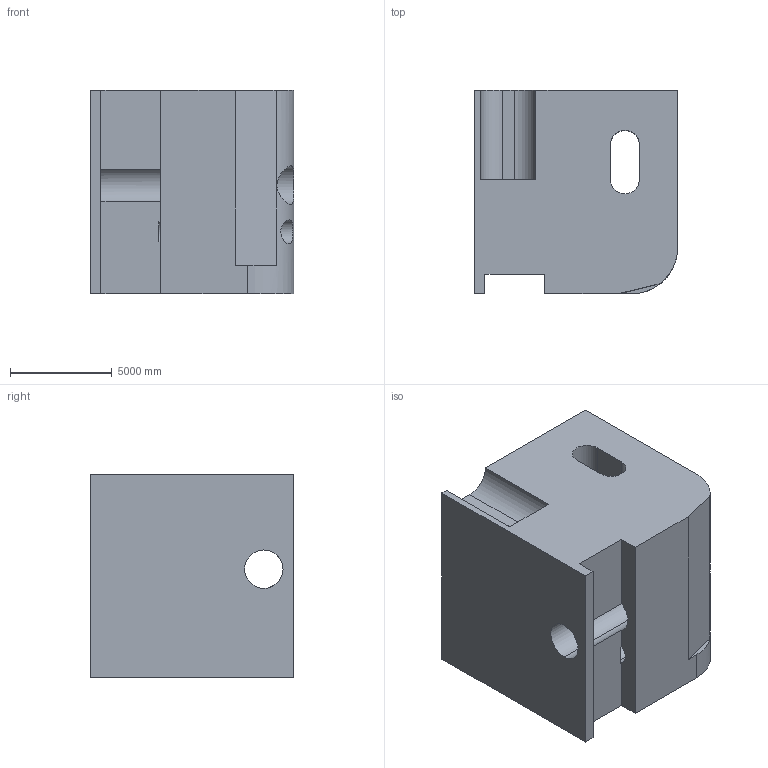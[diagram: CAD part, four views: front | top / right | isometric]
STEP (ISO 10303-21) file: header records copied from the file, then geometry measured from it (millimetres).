
FILE_DESCRIPTION (( 'STEP AP203' ), '1' );
FILE_NAME ('62.STEP', '2022-09-02T15:22:21', ( 'user' ), ( '' ), 'SwSTEP 2.0', 'SolidWorks 2021', '' );
FILE_SCHEMA (( 'CONFIG_CONTROL_DESIGN' ));
Length unit declared in the file: centimetre
Products named in the file (1): 62
Bounding box: 10000 x 10000 x 10000 mm (x, y, z)
Volume: 874547081396.7 mm3; surface area: 740762155 mm2
Topology: 1 solids, 1 shells, 27 faces, 84 edges, 56 vertices
Faces by surface type: plane 18, cylinder 9
Entity records: 1500 total; most frequent: CARTESIAN_POINT 647, ORIENTED_EDGE 168, DIRECTION 155, EDGE_CURVE 84, LINE 59, VECTOR 59, VERTEX_POINT 56, AXIS2_PLACEMENT_3D 48
